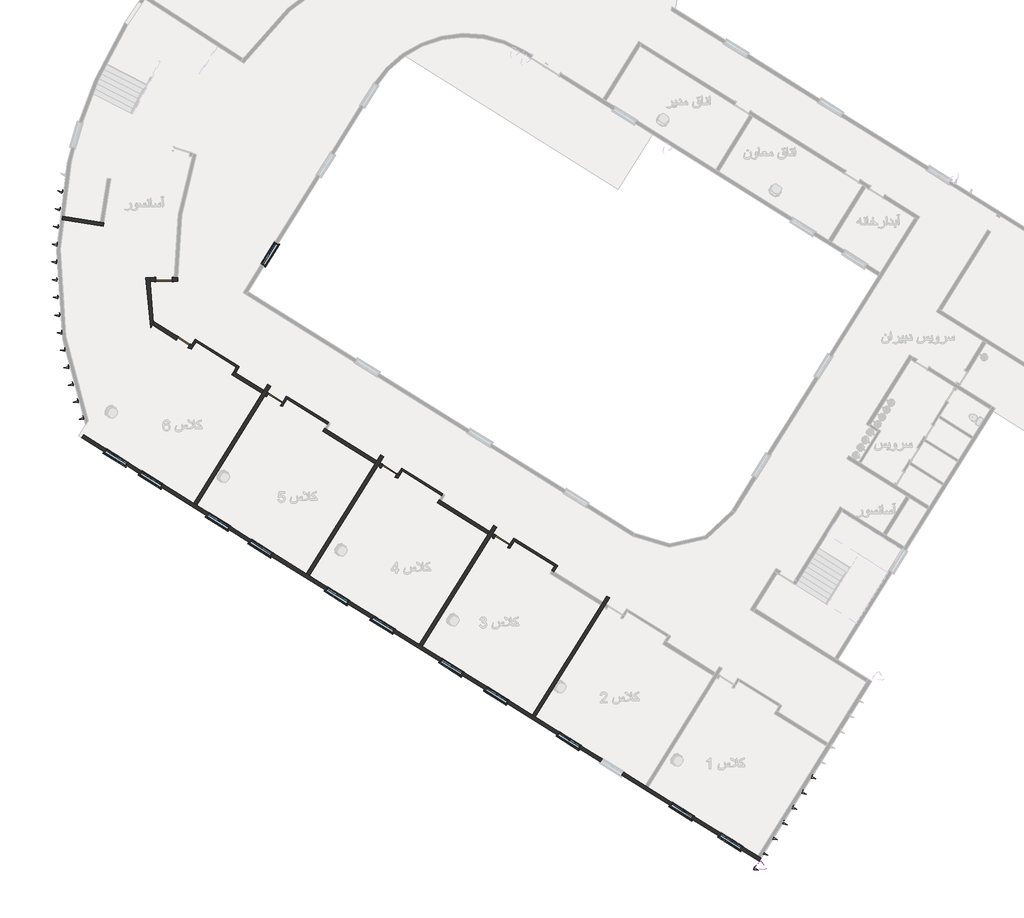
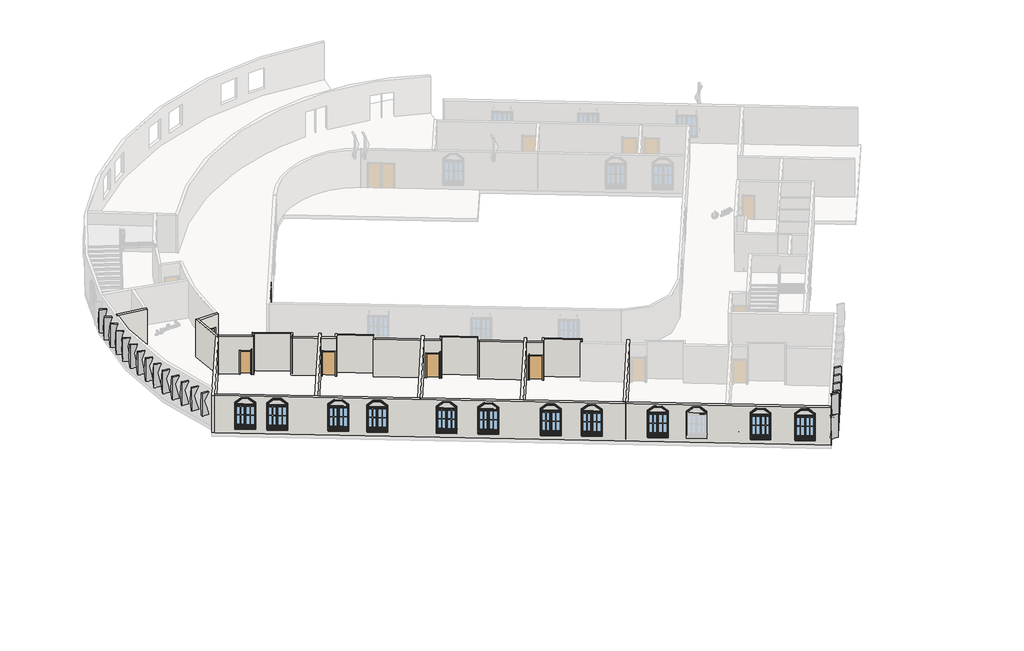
# One storey, part 1 of 12: 23 walls, 22 plates, 12 windows, 5 doors.
"""IFC4 building model written with IfcOpenShell, lengths in millimetres."""

from ifc_helpers import new_model, si_unit, frame, origin, origin_with_axes, place, context, project, spatial, polyline, circle_curve, outline, extrude, faceted_brep, transform, mapped, element, save
from ifc_brep_helpers import plane_surface, cylinder_surface, revolved_surface, advanced_brep
from components import m_single_flush_0762_x_2032mm_0c256fab, m_single_flush_0915_x_2134mm_6a9e8738, m_single_flush_0915_x_2134mm_727434cd, plate_91021fb5, plate_51c6a2b6, m_window_casement_double_1400_x_1800mm_877d247a, m_window_casement_double_1400_x_1800mm_eb8f2d9a

model = new_model("IFC4")

# Units and contexts
model_context = context("Model", 3, world=origin())
ifc_project = project(units=[si_unit("LENGTHUNIT", "METRE", prefix="MILLI")], contexts=[model_context])

# Site, building, storey
site = spatial("IfcSite", under=ifc_project)
building = spatial("IfcBuilding", under=site)
storey = spatial("IfcBuildingStorey", under=building, Name="\u200fهمکف", Elevation=0.0)

# Doors
placement = place(None, origin())
m_single_flush_0762_x_2032mm_shape = m_single_flush_0762_x_2032mm_0c256fab(model_context)
element("IfcDoor", 1, ObjectType="M_Single-Flush : 0762 x 2032mm", at=placement, inside=storey, context=model_context, shape_type="MappedRepresentation", body=[
    mapped(m_single_flush_0762_x_2032mm_shape, transform((10115.2905593, -38746.8053075, 0.0), x_axis=(0.8480480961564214, -0.5299192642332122, 0.0), y_axis=(0.5299192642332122, 0.8480480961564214, 0.0), z_axis=(0.0, 0.0, 1.0))),
])
m_single_flush_0915_x_2134mm_shape = m_single_flush_0915_x_2134mm_6a9e8738(model_context)
element("IfcDoor", 2, ObjectType="M_Single-Flush : 0915 x 2134mm", at=placement, inside=storey, context=model_context, shape_type="MappedRepresentation", body=[
    mapped(m_single_flush_0915_x_2134mm_shape, transform((9053.2639428, -35261.0209227, 0.0), x_axis=(-1.0, 0.0, 0.0), y_axis=(0.0, -1.0, 0.0), z_axis=(0.0, 0.0, 1.0))),
])
m_single_flush_0915_x_2134mm_2_shape = m_single_flush_0915_x_2134mm_727434cd(model_context)
element("IfcDoor", 3, ObjectType="M_Single-Flush : 0915 x 2134mm", at=placement, inside=storey, context=model_context, shape_type="MappedRepresentation", body=[
    mapped(m_single_flush_0915_x_2134mm_2_shape, transform((27835.8534979, -49819.8419864, 0.0), x_axis=(-0.8480480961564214, 0.5299192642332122, 0.0), y_axis=(-0.5299192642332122, -0.8480480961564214, 0.0), z_axis=(0.0, 0.0, 1.0))),
])
element("IfcDoor", 4, ObjectType="M_Single-Flush : 0915 x 2134mm", at=placement, inside=storey, context=model_context, shape_type="MappedRepresentation", body=[
    mapped(m_single_flush_0915_x_2134mm_2_shape, transform((21561.1176268, -45898.9518492, 0.0), x_axis=(-0.8480480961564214, 0.5299192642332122, 0.0), y_axis=(-0.5299192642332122, -0.8480480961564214, 0.0), z_axis=(0.0, 0.0, 1.0))),
])
element("IfcDoor", 5, ObjectType="M_Single-Flush : 0915 x 2134mm", at=placement, inside=storey, context=model_context, shape_type="MappedRepresentation", body=[
    mapped(m_single_flush_0915_x_2134mm_2_shape, transform((15199.9368652, -41924.0449493, 0.0), x_axis=(-0.8480480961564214, 0.5299192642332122, 0.0), y_axis=(-0.5299192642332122, -0.8480480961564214, 0.0), z_axis=(0.0, 0.0, 1.0))),
])

# Plates
plate_shape = plate_91021fb5(model_context)
element("IfcPlate", 6, ObjectType="مدل پارامتریک کصینوس دار : مدل پارامتریک کصینوس دار", at=placement, inside=storey, context=model_context, shape_type="MappedRepresentation", body=[
    mapped(plate_shape, transform((41388.9153587, -69783.5357033, -244.7632103), x_axis=(0.0, 0.0, 1.0), y_axis=(0.5299192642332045, 0.8480480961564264, 0.0), z_axis=(-0.8480480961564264, 0.5299192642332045, 0.0))),
])
element("IfcPlate", 7, ObjectType="مدل پارامتریک کصینوس دار : مدل پارامتریک کصینوس دار", at=placement, inside=storey, context=model_context, shape_type="MappedRepresentation", body=[
    mapped(plate_shape, transform((41839.2084152, -69006.330859, -2050.0), x_axis=(0.0, 0.0, 1.0), y_axis=(0.5299192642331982, 0.8480480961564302, 0.0), z_axis=(-0.8480480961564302, 0.5299192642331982, 0.0))),
])
element("IfcPlate", 8, ObjectType="مدل پارامتریک کصینوس دار : مدل پارامتریک کصینوس دار", at=placement, inside=storey, context=model_context, shape_type="MappedRepresentation", body=[
    mapped(plate_shape, transform((42369.1276794, -68158.2827628, -2050.0), x_axis=(0.0, 0.0, 1.0), y_axis=(0.5299192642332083, 0.8480480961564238, 0.0), z_axis=(-0.8480480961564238, 0.5299192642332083, 0.0))),
])
element("IfcPlate", 9, ObjectType="مدل پارامتریک کصینوس دار : مدل پارامتریک کصینوس دار", at=placement, inside=storey, context=model_context, shape_type="MappedRepresentation", body=[
    mapped(plate_shape, transform((42899.0469437, -67310.2346667, -2050.0), x_axis=(0.0, 0.0, 1.0), y_axis=(0.5299192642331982, 0.8480480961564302, 0.0), z_axis=(-0.8480480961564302, 0.5299192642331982, 0.0))),
])
element("IfcPlate", 10, ObjectType="مدل پارامتریک کصینوس دار : مدل پارامتریک کصینوس دار", at=placement, inside=storey, context=model_context, shape_type="MappedRepresentation", body=[
    mapped(plate_shape, transform((43428.9662079, -66462.1865705, -2050.0), x_axis=(0.0, 0.0, 1.0), y_axis=(0.5299192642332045, 0.8480480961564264, 0.0), z_axis=(-0.8480480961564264, 0.5299192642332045, 0.0))),
])
element("IfcPlate", 11, ObjectType="مدل پارامتریک کصینوس دار : مدل پارامتریک کصینوس دار", at=placement, inside=storey, context=model_context, shape_type="MappedRepresentation", body=[
    mapped(plate_shape, transform((43958.8854721, -65614.1384744, -2050.0), x_axis=(0.0, 0.0, 1.0), y_axis=(0.5299192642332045, 0.8480480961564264, 0.0), z_axis=(-0.8480480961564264, 0.5299192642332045, 0.0))),
])
element("IfcPlate", 12, ObjectType="مدل پارامتریک کصینوس دار : مدل پارامتریک کصینوس دار", at=placement, inside=storey, context=model_context, shape_type="MappedRepresentation", body=[
    mapped(plate_shape, transform((41309.289151, -69854.3789551, -2050.0), x_axis=(0.0, 0.0, 1.0), y_axis=(0.5299192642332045, 0.8480480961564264, 0.0), z_axis=(-0.8480480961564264, 0.5299192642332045, 0.0))),
])
element("IfcPlate", 13, ObjectType="مدل پارامتریک کصینوس دار : مدل پارامتریک کصینوس دار", at=placement, inside=storey, context=model_context, shape_type="MappedRepresentation", body=[
    mapped(plate_shape, transform((44488.8047364, -64766.0903782, -2050.0), x_axis=(0.0, 0.0, 1.0), y_axis=(0.5299192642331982, 0.8480480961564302, 0.0), z_axis=(-0.8480480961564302, 0.5299192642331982, 0.0))),
])
plate_2_shape = plate_51c6a2b6(model_context)
element("IfcPlate", 14, ObjectType="مدل پارامتریک کصینوس دار : مدل پارامتریک کصینوس دار", at=placement, inside=storey, context=model_context, shape_type="MappedRepresentation", body=[
    mapped(plate_2_shape, transform((4717.597283, -44893.7210796, -2050.0), x_axis=(0.0, 0.0, 1.0), y_axis=(0.33370881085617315, -0.9426762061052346, 0.0), z_axis=(0.9426762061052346, 0.33370881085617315, 0.0))),
])
element("IfcPlate", 15, ObjectType="مدل پارامتریک کصینوس دار : مدل پارامتریک کصینوس دار", at=placement, inside=storey, context=model_context, shape_type="MappedRepresentation", body=[
    mapped(plate_2_shape, transform((4328.9182762, -43969.2690648, -2050.0), x_axis=(0.0, 0.0, 1.0), y_axis=(0.29707181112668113, -0.9548551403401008, 0.0), z_axis=(0.9548551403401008, 0.29707181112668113, 0.0))),
])
element("IfcPlate", 16, ObjectType="مدل پارامتریک کصینوس دار : مدل پارامتریک کصینوس دار", at=placement, inside=storey, context=model_context, shape_type="MappedRepresentation", body=[
    mapped(plate_2_shape, transform((3976.2137655, -43030.5026263, -2050.0), x_axis=(0.0, 0.0, 1.0), y_axis=(0.2599919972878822, -0.9656107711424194, 0.0), z_axis=(0.9656107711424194, 0.2599919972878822, 0.0))),
])
element("IfcPlate", 17, ObjectType="مدل پارامتریک کصینوس دار : مدل پارامتریک کصینوس دار", at=placement, inside=storey, context=model_context, shape_type="MappedRepresentation", body=[
    mapped(plate_2_shape, transform((3660.0094908, -42078.8210858, -2050.0), x_axis=(0.0, 0.0, 1.0), y_axis=(0.22252464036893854, -0.9749270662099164, 0.0), z_axis=(0.9749270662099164, 0.22252464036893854, 0.0))),
])
element("IfcPlate", 18, ObjectType="مدل پارامتریک کصینوس دار : مدل پارامتریک کصینوس دار", at=placement, inside=storey, context=model_context, shape_type="MappedRepresentation", body=[
    mapped(plate_2_shape, transform((3380.7767851, -41115.643016, -2050.0), x_axis=(0.0, 0.0, 1.0), y_axis=(0.18472558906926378, -0.9827901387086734, 0.0), z_axis=(0.9827901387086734, 0.18472558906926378, 0.0))),
])
element("IfcPlate", 19, ObjectType="مدل پارامتریک کصینوس دار : مدل پارامتریک کصینوس دار", at=placement, inside=storey, context=model_context, shape_type="MappedRepresentation", body=[
    mapped(plate_2_shape, transform((3138.9318715, -40142.4041267, -2050.0), x_axis=(0.0, 0.0, 1.0), y_axis=(0.146651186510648, -0.9891882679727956, 0.0), z_axis=(0.9891882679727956, 0.146651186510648, 0.0))),
])
element("IfcPlate", 20, ObjectType="مدل پارامتریک کصینوس دار : مدل پارامتریک کصینوس دار", at=placement, inside=storey, context=model_context, shape_type="MappedRepresentation", body=[
    mapped(plate_2_shape, transform((2934.8352432, -39160.5551239, -2050.0), x_axis=(0.0, 0.0, 1.0), y_axis=(0.10835818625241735, -0.9941119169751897, 0.0), z_axis=(0.9941119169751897, 0.10835818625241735, 0.0))),
])
element("IfcPlate", 21, ObjectType="مدل پارامتریک کصینوس دار : مدل پارامتریک کصینوس دار", at=placement, inside=storey, context=model_context, shape_type="MappedRepresentation", body=[
    mapped(plate_2_shape, transform((2768.7911259, -38171.559548, -2050.0), x_axis=(0.0, 0.0, 1.0), y_axis=(0.06990366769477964, -0.997553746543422, 0.0), z_axis=(0.997553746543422, 0.06990366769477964, 0.0))),
])
element("IfcPlate", 22, ObjectType="مدل پارامتریک کصینوس دار : مدل پارامتریک کصینوس دار", at=placement, inside=storey, context=model_context, shape_type="MappedRepresentation", body=[
    mapped(plate_2_shape, transform((2641.0470242, -37176.8915922, -2050.0), x_axis=(0.0, 0.0, 1.0), y_axis=(0.0313449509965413, -0.9995086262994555, 0.0), z_axis=(0.9995086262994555, 0.0313449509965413, 0.0))),
])
element("IfcPlate", 23, ObjectType="مدل پارامتریک کصینوس دار : مدل پارامتریک کصینوس دار", at=placement, inside=storey, context=model_context, shape_type="MappedRepresentation", body=[
    mapped(plate_2_shape, transform((2551.793353, -36178.0339045, -2050.0), x_axis=(0.0, 0.0, 1.0), y_axis=(-0.007260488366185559, -0.9999736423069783, 0.0), z_axis=(0.9999736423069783, -0.007260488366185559, 0.0))),
])
element("IfcPlate", 24, ObjectType="مدل پارامتریک کصینوس دار : مدل پارامتریک کصینوس دار", at=placement, inside=storey, context=model_context, shape_type="MappedRepresentation", body=[
    mapped(plate_2_shape, transform((2501.1631535, -35176.4753786, -2050.0), x_axis=(0.0, 0.0, 1.0), y_axis=(-0.045855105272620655, -0.9989481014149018, 0.0), z_axis=(0.9989481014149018, -0.045855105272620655, 0.0))),
])
element("IfcPlate", 25, ObjectType="مدل پارامتریک کصینوس دار : مدل پارامتریک کصینوس دار", at=placement, inside=storey, context=model_context, shape_type="MappedRepresentation", body=[
    mapped(plate_2_shape, transform((2489.2318949, -34173.7089337, -2050.0), x_axis=(0.0, 0.0, 1.0), y_axis=(-0.08438137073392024, -0.9964335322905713, 0.0), z_axis=(0.9964335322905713, -0.08438137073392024, 0.0))),
])
element("IfcPlate", 26, ObjectType="مدل پارامتریک کصینوس دار : مدل پارامتریک کصینوس دار", at=placement, inside=storey, context=model_context, shape_type="MappedRepresentation", body=[
    mapped(plate_2_shape, transform((2516.0173619, -33171.2292896, -2050.0), x_axis=(0.0, 0.0, 1.0), y_axis=(-0.12278185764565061, -0.9924336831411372, 0.0), z_axis=(0.9924336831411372, -0.12278185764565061, 0.0))),
])
element("IfcPlate", 27, ObjectType="مدل پارامتریک کصینوس دار : مدل پارامتریک کصینوس دار", at=placement, inside=storey, context=model_context, shape_type="MappedRepresentation", body=[
    mapped(plate_2_shape, transform((2581.4796282, -32170.5307388, -2050.0), x_axis=(0.0, 0.0, 1.0), y_axis=(-0.16099932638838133, -0.9869545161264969, 0.0), z_axis=(0.9869545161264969, -0.16099932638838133, 0.0))),
])

# Walls
element("IfcWall", 28, ObjectType="Generic - 200mm", at=placement, inside=storey, context=model_context, shape_type="Brep", body=[
    faceted_brep([(3379.4283717, -31948.7903107, 0.0), (5670.7915732, -32311.7065889, 0.0), (5670.7915732, -32311.7065889, 3300.0), (3379.4283717, -31948.7903107, 3300.0), (3410.7152647, -31751.2526425, 0.0), (3410.7152647, -31751.2526425, 3300.0), (5504.5407981, -32082.8820278, 3300.0), (5702.0784662, -32114.1689208, 3300.0), (5702.0784662, -32114.1689208, 0.0), (5504.5407981, -32082.8820278, 0.0)], [[[0, 1, 2, 3]], [[4, 5, 6, 7, 8, 9]], [[1, 0, 4, 9, 8]], [[0, 3, 5, 4]], [[2, 1, 8, 7]], [[3, 2, 7, 6, 5]]]),
])
element("IfcWall", 29, ObjectType="Generic - 200mm", at=placement, inside=storey, context=model_context, shape_type="AdvancedBrep", body=[
    advanced_brep(
    [(8461.2110478, -37692.4043817, 0.0), (8398.8638738, -37792.1807172, 0.0), (8298.5516912, -37952.7137665, 0.0), (8252.7688162, -37648.5519238, 0.0), (8044.8709061, -35161.0209227, 0.0), (8244.9320284, -35161.0209227, 0.0), (8250.8527294, -35361.0398638, 0.0), (8445.8385172, -37585.6864525, 0.0), (8244.9320284, -35161.0209227, 3300.0), (8250.8518702, -35361.0209227, 3300.0), (8445.8400555, -37585.6984813, 3300.0), (8461.2110478, -37692.4043817, 3300.0), (8298.5516912, -37952.7137665, 3300.0), (8252.7703675, -37648.5632167, 3300.0), (8044.8709061, -35161.0209227, 3300.0), (8398.8638738, -37792.1807172, 3300.0)],
    [
        (0, 1),
        (1, 2),
        (2, 3, circle_curve(frame((29284.4488792, -34638.3554793, 0.0), z_axis=(0.0, 0.0, -1.0), x_axis=(1.0, 0.0, 0.0)), 21246.0078989)),
        (3, 4, circle_curve(frame((29284.4488792, -34638.3554793, 0.0), z_axis=(0.0, 0.0, -1.0), x_axis=(1.0, 0.0, 0.0)), 21246.0078345)),
        (4, 5),
        (5, 6, circle_curve(frame((29284.4488792, -34638.3554793, 0.0), z_axis=(0.0, 0.0, 1.0), x_axis=(1.0, 0.0, 0.0)), 21046.0078989)),
        (6, 7, circle_curve(frame((29284.4488792, -34638.3554793, 0.0), z_axis=(0.0, 0.0, 1.0), x_axis=(1.0, 0.0, 0.0)), 21046.0076905)),
        (7, 0, circle_curve(frame((29284.4488792, -34638.3554793, 0.0), z_axis=(0.0, 0.0, 1.0), x_axis=(1.0, 0.0, 0.0)), 21046.0077374)),
        (8, 9, circle_curve(frame((29284.4488792, -34638.3554793, 3300.0), z_axis=(0.0, 0.0, 1.0), x_axis=(1.0, 0.0, 0.0)), 21046.0078989)),
        (9, 10, circle_curve(frame((29284.4488792, -34638.3554793, 3300.0), z_axis=(0.0, 0.0, 1.0), x_axis=(1.0, 0.0, 0.0)), 21046.0078989)),
        (10, 11, circle_curve(frame((29284.4488792, -34638.3554793, 3300.0), z_axis=(0.0, 0.0, 1.0), x_axis=(1.0, 0.0, 0.0)), 21046.0078989)),
        (11, 0),
        (5, 8),
        (12, 13, circle_curve(frame((29284.4488792, -34638.3554793, 3300.0), z_axis=(0.0, 0.0, -1.0), x_axis=(1.0, 0.0, 0.0)), 21246.0078989)),
        (13, 14, circle_curve(frame((29284.4488792, -34638.3554793, 3300.0), z_axis=(0.0, 0.0, -1.0), x_axis=(1.0, 0.0, 0.0)), 21246.0078989)),
        (14, 4),
        (2, 12),
        (14, 8),
        (11, 15),
        (15, 12),
    ],
    [
        plane_surface(frame((50330.456778, -34638.3554793, 0.0), z_axis=(0.0, 0.0, -1.0), x_axis=(0.0, 1.0, 0.0))),
        revolved_surface(polyline([(50330.4567781, -34638.3554793, 0.0), (50330.4567781, -34638.3554793, 3300.0)]), (29284.4488792, -34638.3554793, 0.0), (0.0, 0.0, -1.0)),
        cylinder_surface(frame((29284.4488792, -34638.3554793, 0.0), z_axis=(0.0, 0.0, 1.0), x_axis=(1.0, 0.0, 0.0)), 21246.0078989),
        plane_surface(frame((8250.8518702, -35161.0209227, 0.0), z_axis=(0.0, 1.0, 0.0), x_axis=(-1.0, 0.0, 0.0))),
        plane_surface(frame((4583.4451713, -43898.1270095, 0.0), z_axis=(0.8480480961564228, -0.5299192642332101, 0.0), x_axis=(0.5299192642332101, 0.8480480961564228, 0.0))),
        plane_surface(frame((48968.0352269, -34638.3554793, 3300.0), z_axis=(0.0, 0.0, 1.0), x_axis=(0.0, -1.0, 0.0))),
    ],
    [
        (0, [[1, 2, 3, 4, 5, 6, 7, 8]]),
        (1, [[9, 10, 11, 12, -8, -7, -6, 13]]),
        (2, [[14, 15, 16, -4, -3, 17]]),
        (3, [[18, -13, -5, -16]]),
        (4, [[19, 20, -17, -2, -1, -12]]),
        (5, [[-11, -10, -9, -18, -15, -14, -20, -19]]),
    ],
),
])
element("IfcWall", 30, ObjectType="Generic - 200mm", at=placement, inside=storey, context=model_context, shape_type="AdvancedBrep", body=[
    advanced_brep(
    [(8250.8518702, -35361.0209227, 0.0), (8595.7639428, -35361.0209227, 0.0), (8595.7639428, -35361.0209227, 2134.0), (9510.7639428, -35361.0209227, 2134.0), (9510.7639428, -35361.0209227, 0.0), (9814.2693312, -35361.0209227, 0.0), (9814.2693312, -35361.0209227, 3300.0), (8250.8518702, -35361.0209227, 3300.0), (8595.7639428, -35161.0209227, 2134.0), (8595.7639428, -35161.0209227, 0.0), (8244.9320284, -35161.0209227, 0.0), (8244.9320284, -35161.0209227, 3300.0), (9607.803018, -35161.0209227, 3300.0), (9807.874288, -35161.0209227, 3300.0), (9807.874288, -35161.0209227, 0.0), (9607.803018, -35161.0209227, 0.0), (9510.7639428, -35161.0209227, 0.0), (9510.7639428, -35161.0209227, 2134.0)],
    [
        (0, 1),
        (1, 2),
        (2, 3),
        (3, 4),
        (4, 5),
        (5, 6),
        (6, 7),
        (7, 0),
        (8, 9),
        (9, 10),
        (10, 11),
        (11, 12),
        (12, 13),
        (13, 14),
        (14, 15),
        (15, 16),
        (16, 17),
        (17, 8),
        (9, 1),
        (0, 10, circle_curve(frame((29284.4488792, -34638.3554793, 0.0), z_axis=(0.0, 0.0, -1.0), x_axis=(1.0, 0.0, 0.0)), 21046.0078989)),
        (14, 5, circle_curve(frame((29284.4488792, -34638.3554793, 0.0), z_axis=(0.0, 0.0, 1.0), x_axis=(1.0, 0.0, 0.0)), 19483.5863478)),
        (4, 16),
        (13, 6, circle_curve(frame((29284.4488792, -34638.3554793, 3300.0), z_axis=(0.0, 0.0, 1.0), x_axis=(1.0, 0.0, 0.0)), 19483.5863478)),
        (7, 11, circle_curve(frame((29284.4488792, -34638.3554793, 3300.0), z_axis=(0.0, 0.0, -1.0), x_axis=(1.0, 0.0, 0.0)), 21046.0078989)),
        (8, 2),
        (17, 3),
    ],
    [
        plane_surface(frame((8250.8518702, -35361.0209227, 0.0), z_axis=(0.0, -1.0, 0.0), x_axis=(1.0, 0.0, 0.0))),
        plane_surface(frame((8250.8518702, -35161.0209227, 0.0), z_axis=(0.0, 1.0, 0.0), x_axis=(-1.0, 0.0, 0.0))),
        plane_surface(frame((8147.6104731, -35361.0209227, 0.0), z_axis=(0.0, 0.0, -1.0), x_axis=(0.0, 1.0, 0.0))),
        revolved_surface(polyline([(48768.035227, -34638.3554793, 0.0), (48768.035227, -34638.3554793, 3300.0)]), (29284.4488792, -34638.3554793, 0.0), (0.0, 0.0, -1.0)),
        cylinder_surface(frame((29284.4488792, -34638.3554793, 0.0), z_axis=(0.0, 0.0, -1.0), x_axis=(1.0, 0.0, 0.0)), 21046.0078989),
        plane_surface(frame((8595.7639428, -35361.0209227, 0.0), z_axis=(1.0, 0.0, 0.0), x_axis=(0.0, 1.0, 0.0))),
        plane_surface(frame((8595.7639428, -35361.0209227, 2134.0), z_axis=(0.0, 0.0, -1.0), x_axis=(0.0, 1.0, 0.0))),
        plane_surface(frame((9510.7639428, -35361.0209227, 2134.0), z_axis=(-1.0, 0.0, 0.0), x_axis=(0.0, 1.0, 0.0))),
        plane_surface(frame((48968.0352269, -34638.3554793, 3300.0), z_axis=(0.0, 0.0, 1.0), x_axis=(0.0, -1.0, 0.0))),
    ],
    [
        (0, [[1, 2, 3, 4, 5, 6, 7, 8]]),
        (1, [[9, 10, 11, 12, 13, 14, 15, 16, 17, 18]]),
        (2, [[-10, 19, -1, 20]]),
        (2, [[-16, -15, 21, -5, 22]]),
        (3, [[-6, -21, -14, 23]]),
        (4, [[-8, 24, -11, -20]]),
        (5, [[-2, -19, -9, 25]]),
        (6, [[-3, -25, -18, 26]]),
        (7, [[-4, -26, -17, -22]]),
        (8, [[-7, -23, -13, -12, -24]]),
    ],
),
])
element("IfcWall", 31, ObjectType="Generic - 200mm", at=placement, inside=storey, context=model_context, shape_type="AdvancedBrep", body=[
    advanced_brep(
    [(4477.4613184, -44067.7366287, 0.0), (4583.4451713, -43898.1270095, 0.0), (8298.5516912, -37952.7137665, 0.0), (8298.5516912, -37952.7137665, 3300.0), (4583.4451713, -43898.1270095, 3300.0), (4477.4613184, -44067.7366287, 3300.0), (4307.8516992, -43961.7527759, 0.0), (4307.8516992, -43961.7527759, 3300.0), (4699.4334687, -43335.0909491, 3300.0), (4833.0156697, -43121.3147404, 3300.0), (8252.7703675, -37648.5632167, 3300.0), (8252.7703675, -37648.5632167, 0.0), (4833.0156697, -43121.3147404, 0.0), (4699.4334687, -43335.0909491, 0.0)],
    [
        (0, 1),
        (1, 2),
        (2, 3),
        (3, 4),
        (4, 5),
        (5, 0),
        (6, 7),
        (7, 8),
        (8, 9),
        (9, 10),
        (10, 11),
        (11, 12),
        (12, 13),
        (13, 6),
        (0, 6),
        (11, 2, circle_curve(frame((29284.4488792, -34638.3554793, 0.0), z_axis=(0.0, 0.0, 1.0), x_axis=(1.0, 0.0, 0.0)), 21246.0078989)),
        (5, 7),
        (10, 3, circle_curve(frame((29284.4488792, -34638.3554793, 3300.0), z_axis=(0.0, 0.0, 1.0), x_axis=(1.0, 0.0, 0.0)), 21246.0078989)),
    ],
    [
        plane_surface(frame((4583.4451713, -43898.1270095, 0.0), z_axis=(0.8480480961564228, -0.5299192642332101, 0.0), x_axis=(0.5299192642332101, 0.8480480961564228, 0.0))),
        plane_surface(frame((4413.835552, -43792.1431566, 0.0), z_axis=(-0.8480480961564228, 0.5299192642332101, 0.0), x_axis=(-0.5299192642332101, -0.8480480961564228, 0.0))),
        plane_surface(frame((4530.4532449, -43982.9318191, 0.0), z_axis=(0.0, 0.0, -1.0), x_axis=(-0.8480480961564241, 0.5299192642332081, 0.0))),
        plane_surface(frame((49821.0906045, -72401.580874, 0.0), z_axis=(-0.5299192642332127, -0.8480480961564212, 0.0), x_axis=(0.8480480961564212, -0.5299192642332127, 0.0))),
        revolved_surface(polyline([(50530.4567781, -34638.3554793, 3300.0), (50530.4567781, -34638.3554793, 0.0)]), (29284.4488792, -34638.3554793, 0.0), (0.0, 0.0, 1.0)),
        plane_surface(frame((48968.0352269, -34638.3554793, 3300.0), z_axis=(0.0, 0.0, 1.0), x_axis=(0.0, -1.0, 0.0))),
    ],
    [
        (0, [[1, 2, 3, 4, 5, 6]]),
        (1, [[7, 8, 9, 10, 11, 12, 13, 14]]),
        (2, [[-2, -1, 15, -14, -13, -12, 16]]),
        (3, [[-6, 17, -7, -15]]),
        (4, [[-3, -16, -11, 18]]),
        (5, [[-5, -4, -18, -10, -9, -8, -17]]),
    ],
),
])
element("IfcWall", 32, ObjectType="Generic - 200mm", at=placement, inside=storey, context=model_context, shape_type="Brep", body=[
    faceted_brep([(42236.7806406, -67426.5423414, 0.0), (42067.1710214, -67320.5584886, 0.0), (35961.2247291, -63505.1397861, 0.0), (35791.6151098, -63399.1559333, 0.0), (29685.6688175, -59583.7372308, 0.0), (29516.0591983, -59477.7533779, 0.0), (23410.1129059, -55662.3346755, 0.0), (23240.5032867, -55556.3508226, 0.0), (17134.5569944, -51740.9321201, 0.0), (16964.9473752, -51634.9482673, 0.0), (10859.0010828, -47819.5295648, 0.0), (10689.3914636, -47713.545712, 0.0), (4583.4451713, -43898.1270095, 0.0), (4583.4451713, -43898.1270095, 3300.0), (10689.3914636, -47713.545712, 3300.0), (10859.0010828, -47819.5295648, 3300.0), (16964.9473752, -51634.9482673, 3300.0), (17134.5569944, -51740.9321201, 3300.0), (23240.5032867, -55556.3508226, 3300.0), (23410.1129059, -55662.3346755, 3300.0), (29516.0591983, -59477.7533779, 3300.0), (29685.6688175, -59583.7372308, 3300.0), (35791.6151098, -63399.1559333, 3300.0), (35961.2247291, -63505.1397861, 3300.0), (42067.1710214, -67320.5584886, 3300.0), (42236.7806406, -67426.5423414, 3300.0), (7042.7846501, -45434.8928758, 2400.0), (5855.5173155, -44693.0059058, 2400.0), (5855.5173155, -44693.0059058, 600.0), (7042.7846501, -45434.8928758, 600.0), (8993.2952713, -46653.7071835, 2400.0), (7806.0279367, -45911.8202136, 2400.0), (7806.0279367, -45911.8202136, 600.0), (8993.2952713, -46653.7071835, 600.0), (12724.7068944, -48985.3519461, 2400.0), (11537.4395598, -48243.4649762, 2400.0), (11537.4395598, -48243.4649762, 600.0), (12724.7068944, -48985.3519461, 600.0), (15099.2415636, -50469.125886, 2400.0), (13911.974229, -49727.2389161, 2400.0), (13911.974229, -49727.2389161, 600.0), (15099.2415636, -50469.125886, 600.0), (19339.4820444, -53118.7222071, 2400.0), (18152.2147098, -52376.8352372, 2400.0), (18152.2147098, -52376.8352372, 600.0), (19339.4820444, -53118.7222071, 600.0), (21883.6263329, -54708.4799998, 2400.0), (20696.3589982, -53966.5930299, 2400.0), (20696.3589982, -53966.5930299, 600.0), (21883.6263329, -54708.4799998, 600.0), (25699.8427656, -57093.1166889, 2400.0), (24512.5754309, -56351.229719, 2400.0), (24512.5754309, -56351.229719, 600.0), (25699.8427656, -57093.1166889, 600.0), (28201.5846492, -58656.3785184, 2400.0), (27014.3173146, -57914.4915485, 2400.0), (27014.3173146, -57914.4915485, 600.0), (28201.5846492, -58656.3785184, 600.0), (32229.813106, -61173.4950235, 2400.0), (31042.5457714, -60431.6080536, 2400.0), (31042.5457714, -60431.6080536, 600.0), (32229.813106, -61173.4950235, 600.0), (34604.3477752, -62657.2689633, 2400.0), (33417.0804406, -61915.3819934, 2400.0), (33417.0804406, -61915.3819934, 600.0), (34604.3477752, -62657.2689633, 600.0), (38505.3690175, -65094.8975788, 2400.0), (37318.1016829, -64353.0106089, 2400.0), (37318.1016829, -64353.0106089, 600.0), (38505.3690175, -65094.8975788, 600.0), (41219.1229252, -66790.6392244, 2400.0), (40031.8555906, -66048.7522544, 2400.0), (40031.8555906, -66048.7522544, 600.0), (41219.1229252, -66790.6392244, 600.0), (42130.7967878, -67596.1519607, 0.0), (42130.7967878, -67596.1519607, 3300.0), (4477.4613184, -44067.7366287, 3300.0), (4477.4613184, -44067.7366287, 0.0), (6936.8007973, -45604.502495, 2400.0), (6936.8007973, -45604.502495, 600.0), (5749.5334627, -44862.6155251, 600.0), (5749.5334627, -44862.6155251, 2400.0), (8887.3114184, -46823.3168027, 2400.0), (8887.3114184, -46823.3168027, 600.0), (7700.0440838, -46081.4298328, 600.0), (7700.0440838, -46081.4298328, 2400.0), (12618.7230415, -49154.9615654, 2400.0), (12618.7230415, -49154.9615654, 600.0), (11431.4557069, -48413.0745954, 600.0), (11431.4557069, -48413.0745954, 2400.0), (14993.2577108, -50638.7355052, 2400.0), (14993.2577108, -50638.7355052, 600.0), (13805.9903761, -49896.8485353, 600.0), (13805.9903761, -49896.8485353, 2400.0), (19233.4981915, -53288.3318264, 2400.0), (19233.4981915, -53288.3318264, 600.0), (18046.2308569, -52546.4448565, 600.0), (18046.2308569, -52546.4448565, 2400.0), (21777.64248, -54878.0896191, 2400.0), (21777.64248, -54878.0896191, 600.0), (20590.3751454, -54136.2026491, 600.0), (20590.3751454, -54136.2026491, 2400.0), (25593.8589127, -57262.7263081, 2400.0), (25593.8589127, -57262.7263081, 600.0), (24406.5915781, -56520.8393382, 600.0), (24406.5915781, -56520.8393382, 2400.0), (28095.6007964, -58825.9881376, 2400.0), (28095.6007964, -58825.9881376, 600.0), (26908.3334618, -58084.1011677, 600.0), (26908.3334618, -58084.1011677, 2400.0), (32123.8292531, -61343.1046427, 2400.0), (32123.8292531, -61343.1046427, 600.0), (30936.5619185, -60601.2176728, 600.0), (30936.5619185, -60601.2176728, 2400.0), (34498.3639224, -62826.8785826, 2400.0), (34498.3639224, -62826.8785826, 600.0), (33311.0965877, -62084.9916126, 600.0), (33311.0965877, -62084.9916126, 2400.0), (38399.3851647, -65264.507198, 2400.0), (38399.3851647, -65264.507198, 600.0), (37212.1178301, -64522.6202281, 600.0), (37212.1178301, -64522.6202281, 2400.0), (41113.1390724, -66960.2488436, 2400.0), (41113.1390724, -66960.2488436, 600.0), (39925.8717378, -66218.3618737, 600.0), (39925.8717378, -66218.3618737, 2400.0)], [[[0, 1, 2, 3, 4, 5, 6, 7, 8, 9, 10, 11, 12, 13, 14, 15, 16, 17, 18, 19, 20, 21, 22, 23, 24, 25], [26, 27, 28, 29], [30, 31, 32, 33], [34, 35, 36, 37], [38, 39, 40, 41], [42, 43, 44, 45], [46, 47, 48, 49], [50, 51, 52, 53], [54, 55, 56, 57], [58, 59, 60, 61], [62, 63, 64, 65], [66, 67, 68, 69], [70, 71, 72, 73]], [[74, 75, 76, 77], [78, 79, 80, 81], [82, 83, 84, 85], [86, 87, 88, 89], [90, 91, 92, 93], [94, 95, 96, 97], [98, 99, 100, 101], [102, 103, 104, 105], [106, 107, 108, 109], [110, 111, 112, 113], [114, 115, 116, 117], [118, 119, 120, 121], [122, 123, 124, 125]], [[12, 11, 10, 9, 8, 7, 6, 5, 4, 3, 2, 1, 0, 74, 77]], [[13, 12, 77, 76]], [[0, 25, 75, 74]], [[25, 24, 23, 22, 21, 20, 19, 18, 17, 16, 15, 14, 13, 76, 75]], [[79, 78, 26, 29]], [[80, 79, 29, 28]], [[81, 80, 28, 27]], [[78, 81, 27, 26]], [[83, 82, 30, 33]], [[84, 83, 33, 32]], [[85, 84, 32, 31]], [[82, 85, 31, 30]], [[87, 86, 34, 37]], [[88, 87, 37, 36]], [[89, 88, 36, 35]], [[86, 89, 35, 34]], [[91, 90, 38, 41]], [[92, 91, 41, 40]], [[93, 92, 40, 39]], [[90, 93, 39, 38]], [[95, 94, 42, 45]], [[96, 95, 45, 44]], [[97, 96, 44, 43]], [[94, 97, 43, 42]], [[99, 98, 46, 49]], [[100, 99, 49, 48]], [[101, 100, 48, 47]], [[98, 101, 47, 46]], [[103, 102, 50, 53]], [[104, 103, 53, 52]], [[105, 104, 52, 51]], [[102, 105, 51, 50]], [[107, 106, 54, 57]], [[108, 107, 57, 56]], [[109, 108, 56, 55]], [[106, 109, 55, 54]], [[111, 110, 58, 61]], [[112, 111, 61, 60]], [[113, 112, 60, 59]], [[110, 113, 59, 58]], [[115, 114, 62, 65]], [[116, 115, 65, 64]], [[117, 116, 64, 63]], [[114, 117, 63, 62]], [[119, 118, 66, 69]], [[120, 119, 69, 68]], [[121, 120, 68, 67]], [[118, 121, 67, 66]], [[123, 122, 70, 73]], [[124, 123, 73, 72]], [[125, 124, 72, 71]], [[122, 125, 71, 70]]]),
])
element("IfcWall", 33, ObjectType="Generic - 200mm", at=placement, inside=storey, context=model_context, shape_type="SweptSolid", body=[
    extrude(outline(polyline([(14992.3713439, -41204.7544148), (10859.0010828, -47819.5295648), (10689.3914636, -47713.545712), (14822.7617246, -41098.7705619), (14992.3713439, -41204.7544148)])), origin_with_axes(), (0.0, 0.0, 1.0), 3300.0),
])
element("IfcWall", 34, ObjectType="Generic - 200mm", at=placement, inside=storey, context=model_context, shape_type="SweptSolid", body=[
    extrude(outline(polyline([(23240.5032867, -55556.3508226), (27373.8735477, -48941.5756726), (27543.483167, -49047.5595254), (23410.1129059, -55662.3346755), (23240.5032867, -55556.3508226)])), origin_with_axes(), (0.0, 0.0, 1.0), 3300.0),
])
element("IfcWall", 35, ObjectType="Generic - 200mm", at=placement, inside=storey, context=model_context, shape_type="SweptSolid", body=[
    extrude(outline(polyline([(29516.0591983, -59477.7533779), (33649.4294593, -52862.9782279), (33819.0390785, -52968.9620808), (29685.6688175, -59583.7372308), (29516.0591983, -59477.7533779)])), origin_with_axes(), (0.0, 0.0, 1.0), 3300.0),
])
element("IfcWall", 36, ObjectType="Generic - 200mm", at=placement, inside=storey, context=model_context, shape_type="SweptSolid", body=[
    extrude(outline(polyline([(16964.9473752, -51634.9482673), (21098.3176362, -45020.1731173), (21267.9272554, -45126.1569701), (17134.5569944, -51740.9321201), (16964.9473752, -51634.9482673)])), origin_with_axes(), (0.0, 0.0, 1.0), 3300.0),
])
element("IfcWall", 37, ObjectType="Generic - 200mm", at=placement, inside=storey, context=model_context, shape_type="AdvancedBrep", body=[
    advanced_brep(
    [(10385.4049576, -39033.5093567, 2032.0), (10385.4049576, -39033.5093567, 0.0), (10575.3677311, -39152.2112719, 0.0), (10575.3677311, -39152.2112719, 3300.0), (8398.8638738, -37792.1807172, 3300.0), (8398.8638738, -37792.1807172, 0.0), (9739.1923083, -38629.7108774, 0.0), (9739.1923083, -38629.7108774, 2032.0), (10681.3515839, -38982.6016527, 0.0), (10576.19362, -38916.8916639, 0.0), (10491.3888104, -38863.8997375, 0.0), (10491.3888104, -38863.8997375, 2032.0), (9845.1761611, -38460.1012582, 2032.0), (9845.1761611, -38460.1012582, 0.0), (8445.8401379, -37585.6990642, 0.0), (8445.8401379, -37585.6990642, 3300.0), (10576.19362, -38916.8916639, 3300.0), (10681.3515839, -38982.6016527, 3300.0), (8461.2110478, -37692.4043817, 0.0), (8461.2110478, -37692.4043817, 3300.0)],
    [
        (0, 1),
        (1, 2),
        (2, 3),
        (3, 4),
        (4, 5),
        (5, 6),
        (6, 7),
        (7, 0),
        (8, 9),
        (9, 10),
        (10, 11),
        (11, 12),
        (12, 13),
        (13, 14),
        (14, 15),
        (15, 16),
        (16, 17),
        (17, 8),
        (5, 18),
        (18, 14, circle_curve(frame((29284.4488792, -34638.3554793, 0.0), z_axis=(0.0, 0.0, -1.0), x_axis=(0.02110900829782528, -0.9997771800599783, 0.0)), 21046.0078989)),
        (13, 6),
        (1, 10),
        (8, 2),
        (3, 17),
        (15, 19, circle_curve(frame((29284.4488792, -34638.3554793, 3300.0), z_axis=(0.0, 0.0, 1.0), x_axis=(0.02110900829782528, -0.9997771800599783, 0.0)), 21046.0078989)),
        (19, 4),
        (19, 18),
        (0, 11),
        (7, 12),
    ],
    [
        plane_surface(frame((53742.4931599, -66126.0249624, 0.0), z_axis=(-0.5299192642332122, -0.8480480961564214, 0.0), x_axis=(0.8480480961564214, -0.5299192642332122, 0.0))),
        plane_surface(frame((53848.4770127, -65956.4153432, 0.0), z_axis=(0.5299192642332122, 0.8480480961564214, 0.0), x_axis=(-0.8480480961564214, 0.5299192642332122, 0.0))),
        plane_surface(frame((8300.4134234, -37730.662048, 0.0), z_axis=(0.0, 0.0, -1.0), x_axis=(0.5299192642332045, 0.8480480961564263, 0.0))),
        plane_surface(frame((48968.0352269, -34638.3554793, 3300.0), z_axis=(0.0, 0.0, 1.0), x_axis=(0.0, -1.0, 0.0))),
        plane_surface(frame((6495.8321463, -40837.6681004, -165.0), z_axis=(-0.8480480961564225, 0.5299192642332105, 0.0), x_axis=(-0.5299192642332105, -0.8480480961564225, 0.0))),
        cylinder_surface(frame((29284.4488792, -34638.3554793, -165.0), z_axis=(0.0, 0.0, 1.0), x_axis=(0.02110900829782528, -0.9997771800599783, 0.0)), 21046.0078989),
        plane_surface(frame((10491.3888104, -38863.8997375, 0.0), z_axis=(-0.8480480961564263, 0.5299192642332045, 0.0), x_axis=(-0.5299192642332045, -0.8480480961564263, 0.0))),
        plane_surface(frame((10491.3888104, -38863.8997375, 2032.0), z_axis=(0.0, 0.0, -1.0), x_axis=(-0.5299192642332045, -0.8480480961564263, 0.0))),
        plane_surface(frame((9845.1761611, -38460.1012582, 2032.0), z_axis=(0.8480480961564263, -0.5299192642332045, 0.0), x_axis=(-0.5299192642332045, -0.8480480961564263, 0.0))),
        plane_surface(frame((10681.3515839, -38982.6016527, 0.0), z_axis=(0.8480480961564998, -0.5299192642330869, 0.0), x_axis=(0.5299192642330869, 0.8480480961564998, 0.0))),
    ],
    [
        (0, [[1, 2, 3, 4, 5, 6, 7, 8]]),
        (1, [[9, 10, 11, 12, 13, 14, 15, 16, 17, 18]]),
        (2, [[-6, 19, 20, -14, 21]]),
        (2, [[-2, 22, -10, -9, 23]]),
        (3, [[-4, 24, -17, -16, 25, 26]]),
        (4, [[-5, -26, 27, -19]]),
        (5, [[-25, -15, -20, -27]]),
        (6, [[-11, -22, -1, 28]]),
        (7, [[-12, -28, -8, 29]]),
        (8, [[-13, -29, -7, -21]]),
        (9, [[-3, -23, -18, -24]]),
    ],
),
])
element("IfcWall", 38, ObjectType="Generic - 200mm", at=placement, inside=storey, context=model_context, shape_type="Brep", body=[
    faceted_brep([(17877.2357844, -43714.9248301, 0.0), (21120.1436964, -45741.3185954, 0.0), (21120.1436964, -45741.3185954, 2134.0), (21896.1077044, -46226.1947222, 2134.0), (21896.1077044, -46226.1947222, 0.0), (22052.1485541, -46323.6998668, 0.0), (22052.1485541, -46323.6998668, 3300.0), (17877.2357844, -43714.9248301, 3300.0), (21226.1275492, -45571.7089762, 2134.0), (21226.1275492, -45571.7089762, 0.0), (18088.3776011, -43611.0251996, 0.0), (17983.2196372, -43545.3152109, 0.0), (17983.2196372, -43545.3152109, 3300.0), (18088.3776011, -43611.0251996, 3300.0), (22052.974443, -46088.3802588, 3300.0), (22158.1324069, -46154.0902475, 3300.0), (22158.1324069, -46154.0902475, 0.0), (22052.974443, -46088.3802588, 0.0), (22002.0915572, -46056.5851029, 0.0), (22002.0915572, -46056.5851029, 2134.0)], [[[0, 1, 2, 3, 4, 5, 6, 7]], [[8, 9, 10, 11, 12, 13, 14, 15, 16, 17, 18, 19]], [[11, 10, 9, 1, 0]], [[18, 17, 16, 5, 4]], [[6, 5, 16, 15]], [[0, 7, 12, 11]], [[2, 1, 9, 8]], [[3, 2, 8, 19]], [[4, 3, 19, 18]], [[7, 6, 15, 14, 13, 12]]]),
])
element("IfcWall", 39, ObjectType="Generic - 200mm", at=placement, inside=storey, context=model_context, shape_type="Brep", body=[
    faceted_brep([(24237.5965055, -47689.3193118, 0.0), (27394.8795675, -49662.2087326, 0.0), (27394.8795675, -49662.2087326, 2134.0), (28170.8435755, -50147.0848594, 2134.0), (28170.8435755, -50147.0848594, 0.0), (28276.0015394, -50212.7948481, 0.0), (28276.0015394, -50212.7948481, 3300.0), (24237.5965055, -47689.3193118, 3300.0), (27500.8634204, -49492.5991134, 2134.0), (27500.8634204, -49492.5991134, 0.0), (24448.7383223, -47585.4196814, 0.0), (24343.5803584, -47519.7096926, 0.0), (24343.5803584, -47519.7096926, 3300.0), (24448.7383223, -47585.4196814, 3300.0), (28276.8274284, -49977.4752401, 3300.0), (28381.9853923, -50043.1852289, 3300.0), (28381.9853923, -50043.1852289, 0.0), (28276.8274284, -49977.4752401, 0.0), (28276.8274284, -49977.4752401, 2134.0)], [[[0, 1, 2, 3, 4, 5, 6, 7]], [[8, 9, 10, 11, 12, 13, 14, 15, 16, 17, 18]], [[11, 10, 9, 1, 0]], [[17, 16, 5, 4]], [[6, 5, 16, 15]], [[0, 7, 12, 11]], [[2, 1, 9, 8]], [[3, 2, 8, 18]], [[4, 3, 18, 17]], [[7, 6, 15, 14, 13, 12]]]),
])
element("IfcWall", 40, ObjectType="Generic - 200mm", at=placement, inside=storey, context=model_context, shape_type="Brep", body=[
    faceted_brep([(12812.5186088, -40550.138291, 0.0), (14758.9629348, -41766.4116955, 0.0), (14758.9629348, -41766.4116955, 2134.0), (15534.9269428, -42251.2878223, 2134.0), (15534.9269428, -42251.2878223, 0.0), (15640.0849067, -42316.9978111, 0.0), (15640.0849067, -42316.9978111, 3300.0), (12812.5186088, -40550.138291, 3300.0), (14864.9467876, -41596.8020763, 2134.0), (14864.9467876, -41596.8020763, 0.0), (13023.6604255, -40446.2386605, 0.0), (12918.5024616, -40380.5286717, 0.0), (12918.5024616, -40380.5286717, 3300.0), (13023.6604255, -40446.2386605, 3300.0), (15640.9107956, -42081.6782031, 3300.0), (15746.0687595, -42147.3881918, 3300.0), (15746.0687595, -42147.3881918, 0.0), (15640.9107956, -42081.6782031, 0.0), (15640.9107956, -42081.6782031, 2134.0)], [[[0, 1, 2, 3, 4, 5, 6, 7]], [[8, 9, 10, 11, 12, 13, 14, 15, 16, 17, 18]], [[17, 16, 5, 4]], [[11, 10, 9, 1, 0]], [[6, 5, 16, 15]], [[7, 6, 15, 14, 13, 12]], [[4, 3, 18, 17]], [[3, 2, 8, 18]], [[2, 1, 9, 8]], [[0, 7, 12, 11]]]),
])
element("IfcWall", 41, ObjectType="Interior - Blockwork 100", at=placement, inside=storey, context=model_context, shape_type="SweptSolid", body=[
    extrude(outline(polyline([(30764.8433806, -51207.9321277), (28527.6925029, -49810.0051086), (28593.4024917, -49704.8471447), (30830.5533693, -51102.7741637), (30764.8433806, -51207.9321277)])), origin_with_axes(), (0.0, 0.0, 1.0), 3300.0),
])
element("IfcWall", 42, ObjectType="Interior - Blockwork 100", at=placement, inside=storey, context=model_context, shape_type="Brep", body=[
    faceted_brep([(30724.2942339, -51506.8222367, 0.0), (30935.7113333, -51168.4841525, 0.0), (30935.7113333, -51168.4841525, 3300.0), (30724.2942339, -51506.8222367, 3300.0), (30619.1362699, -51441.1122479, 0.0), (30619.1362699, -51441.1122479, 3300.0), (30764.8433806, -51207.9321277, 3300.0), (30830.5533693, -51102.7741637, 3300.0), (30830.5533693, -51102.7741637, 0.0), (30764.8433806, -51207.9321277, 0.0)], [[[0, 1, 2, 3]], [[4, 5, 6, 7, 8, 9]], [[1, 0, 4, 9, 8]], [[2, 1, 8, 7]], [[0, 3, 5, 4]], [[3, 2, 7, 6, 5]]]),
])
element("IfcWall", 43, ObjectType="Interior - Blockwork 100", at=placement, inside=storey, context=model_context, shape_type="Brep", body=[
    faceted_brep([(28488.2445278, -49639.1371559, 0.0), (28276.8274284, -49977.4752401, 0.0), (28276.8274284, -49977.4752401, 3300.0), (28488.2445278, -49639.1371559, 3300.0), (28593.4024917, -49704.8471447, 0.0), (28593.4024917, -49704.8471447, 3300.0), (28527.6925029, -49810.0051086, 3300.0), (28381.9853923, -50043.1852289, 3300.0), (28381.9853923, -50043.1852289, 0.0), (28527.6925029, -49810.0051086, 0.0)], [[[0, 1, 2, 3]], [[4, 5, 6, 7, 8, 9]], [[1, 0, 4, 9, 8]], [[0, 3, 5, 4]], [[2, 1, 8, 7]], [[3, 2, 7, 6, 5]]]),
])
element("IfcWall", 44, ObjectType="Interior - Blockwork 100", at=placement, inside=storey, context=model_context, shape_type="Brep", body=[
    faceted_brep([(22198.6815536, -45855.2001385, 0.0), (22303.8395175, -45920.9101273, 0.0), (24489.287469, -47286.5295723, 0.0), (24489.287469, -47286.5295723, 3300.0), (22303.8395175, -45920.9101273, 3300.0), (22198.6815536, -45855.2001385, 3300.0), (22264.3915424, -45750.0421746, 0.0), (22264.3915424, -45750.0421746, 3300.0), (24554.9974578, -47181.3716084, 3300.0), (24554.9974578, -47181.3716084, 0.0)], [[[0, 1, 2, 3, 4, 5]], [[6, 7, 8, 9]], [[2, 1, 0, 6, 9]], [[3, 2, 9, 8]], [[0, 5, 7, 6]], [[5, 4, 3, 8, 7]]]),
])
element("IfcWall", 45, ObjectType="Interior - Blockwork 100", at=placement, inside=storey, context=model_context, shape_type="SweptSolid", body=[
    extrude(outline(polyline([(18128.9267478, -43312.1350906), (15891.7758702, -41914.2080715), (15957.4858589, -41809.0501076), (18194.6367366, -43206.9771267), (18128.9267478, -43312.1350906)])), origin_with_axes(), (0.0, 0.0, 1.0), 3300.0),
])
element("IfcWall", 46, ObjectType="Interior - Blockwork 100", at=placement, inside=storey, context=model_context, shape_type="Brep", body=[
    faceted_brep([(15852.327895, -41743.3401189, 0.0), (15640.9107956, -42081.6782031, 0.0), (15640.9107956, -42081.6782031, 3300.0), (15852.327895, -41743.3401189, 3300.0), (15957.4858589, -41809.0501076, 0.0), (15957.4858589, -41809.0501076, 3300.0), (15891.7758702, -41914.2080715, 3300.0), (15746.0687595, -42147.3881918, 3300.0), (15746.0687595, -42147.3881918, 0.0), (15891.7758702, -41914.2080715, 0.0)], [[[0, 1, 2, 3]], [[4, 5, 6, 7, 8, 9]], [[1, 0, 4, 9, 8]], [[0, 3, 5, 4]], [[2, 1, 8, 7]], [[3, 2, 7, 6, 5]]]),
])
element("IfcWall", 47, ObjectType="Interior - Blockwork 100", at=placement, inside=storey, context=model_context, shape_type="Brep", body=[
    faceted_brep([(13130.4701673, -40041.3094333, 0.0), (13064.7601785, -40146.4673972, 0.0), (12918.5024616, -40380.5286717, 0.0), (12918.5024616, -40380.5286717, 3300.0), (13064.7601785, -40146.4673972, 3300.0), (13130.4701673, -40041.3094333, 3300.0), (13235.6281312, -40107.019422, 0.0), (13235.6281312, -40107.019422, 3300.0), (13023.6604255, -40446.2386605, 3300.0), (13023.6604255, -40446.2386605, 0.0)], [[[0, 1, 2, 3, 4, 5]], [[6, 7, 8, 9]], [[2, 1, 0, 6, 9]], [[0, 5, 7, 6]], [[5, 4, 3, 8, 7]], [[3, 2, 9, 8]]]),
])
element("IfcWall", 48, ObjectType="Interior - Blockwork 100", at=placement, inside=storey, context=model_context, shape_type="Brep", body=[
    faceted_brep([(10722.4513369, -38682.8303894, 0.0), (10827.6093009, -38748.5403782, 0.0), (13064.7601785, -40146.4673972, 0.0), (13064.7601785, -40146.4673972, 3300.0), (10827.6093009, -38748.5403782, 3300.0), (10722.4513369, -38682.8303894, 3300.0), (10788.1613257, -38577.6724255, 0.0), (10788.1613257, -38577.6724255, 3300.0), (13130.4701673, -40041.3094333, 3300.0), (13130.4701673, -40041.3094333, 0.0)], [[[0, 1, 2, 3, 4, 5]], [[6, 7, 8, 9]], [[2, 1, 0, 6, 9]], [[3, 2, 9, 8]], [[0, 5, 7, 6]], [[5, 4, 3, 8, 7]]]),
])
element("IfcWall", 49, ObjectType="Interior - Blockwork 100", at=placement, inside=storey, context=model_context, shape_type="SweptSolid", body=[
    extrude(outline(polyline([(10576.19362, -38916.8916639), (10722.4513369, -38682.8303894), (10827.6093009, -38748.5403782), (10681.3515839, -38982.6016527), (10576.19362, -38916.8916639)])), origin_with_axes(), (0.0, 0.0, 1.0), 3300.0),
])
element("IfcWall", 50, ObjectType="Interior - Blockwork 100", at=placement, inside=storey, context=model_context, shape_type="SweptSolid", body=[
    extrude(outline(polyline([(22052.974443, -46088.3802588), (22198.6815536, -45855.2001385), (22303.8395175, -45920.9101273), (22158.1324069, -46154.0902475), (22052.974443, -46088.3802588)])), origin_with_axes(), (0.0, 0.0, 1.0), 3300.0),
])

# Windows
m_window_casement_double_1400_x_1800mm_shape = m_window_casement_double_1400_x_1800mm_877d247a(model_context)
element("IfcWindow", 51, ObjectType="M_Window-Casement-Double : 1400 x 1800mm", at=placement, inside=storey, context=model_context, shape_type="MappedRepresentation", body=[
    mapped(m_window_casement_double_1400_x_1800mm_shape, transform((6396.1590564, -45148.7542004, -300.0), x_axis=(0.8480480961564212, -0.5299192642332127, 0.0), y_axis=(0.5299192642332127, 0.8480480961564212, 0.0), z_axis=(0.0, 0.0, 1.0))),
])
element("IfcWindow", 52, ObjectType="M_Window-Casement-Double : 1400 x 1800mm", at=placement, inside=storey, context=model_context, shape_type="MappedRepresentation", body=[
    mapped(m_window_casement_double_1400_x_1800mm_shape, transform((8346.6696776, -46367.5685082, -300.0), x_axis=(0.8480480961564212, -0.5299192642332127, 0.0), y_axis=(0.5299192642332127, 0.8480480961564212, 0.0), z_axis=(0.0, 0.0, 1.0))),
])
element("IfcWindow", 53, ObjectType="M_Window-Casement-Double : 1400 x 1800mm", at=placement, inside=storey, context=model_context, shape_type="MappedRepresentation", body=[
    mapped(m_window_casement_double_1400_x_1800mm_shape, transform((12078.0813006, -48699.2132708, -300.0), x_axis=(0.8480480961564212, -0.5299192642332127, 0.0), y_axis=(0.5299192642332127, 0.8480480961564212, 0.0), z_axis=(0.0, 0.0, 1.0))),
])
element("IfcWindow", 54, ObjectType="M_Window-Casement-Double : 1400 x 1800mm", at=placement, inside=storey, context=model_context, shape_type="MappedRepresentation", body=[
    mapped(m_window_casement_double_1400_x_1800mm_shape, transform((14452.6159699, -50182.9872106, -300.0), x_axis=(0.8480480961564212, -0.5299192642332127, 0.0), y_axis=(0.5299192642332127, 0.8480480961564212, 0.0), z_axis=(0.0, 0.0, 1.0))),
])
element("IfcWindow", 55, ObjectType="M_Window-Casement-Double : 1400 x 1800mm", at=placement, inside=storey, context=model_context, shape_type="MappedRepresentation", body=[
    mapped(m_window_casement_double_1400_x_1800mm_shape, transform((18692.8564507, -52832.5835318, -300.0), x_axis=(0.8480480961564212, -0.5299192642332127, 0.0), y_axis=(0.5299192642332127, 0.8480480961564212, 0.0), z_axis=(0.0, 0.0, 1.0))),
])
element("IfcWindow", 56, ObjectType="M_Window-Casement-Double : 1400 x 1800mm", at=placement, inside=storey, context=model_context, shape_type="MappedRepresentation", body=[
    mapped(m_window_casement_double_1400_x_1800mm_shape, transform((21237.0007391, -54422.3413245, -300.0), x_axis=(0.8480480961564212, -0.5299192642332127, 0.0), y_axis=(0.5299192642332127, 0.8480480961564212, 0.0), z_axis=(0.0, 0.0, 1.0))),
])
element("IfcWindow", 57, ObjectType="M_Window-Casement-Double : 1400 x 1800mm", at=placement, inside=storey, context=model_context, shape_type="MappedRepresentation", body=[
    mapped(m_window_casement_double_1400_x_1800mm_shape, transform((25053.2171718, -56806.9780135, -300.0), x_axis=(0.8480480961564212, -0.5299192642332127, 0.0), y_axis=(0.5299192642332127, 0.8480480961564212, 0.0), z_axis=(0.0, 0.0, 1.0))),
])
element("IfcWindow", 58, ObjectType="M_Window-Casement-Double : 1400 x 1800mm", at=placement, inside=storey, context=model_context, shape_type="MappedRepresentation", body=[
    mapped(m_window_casement_double_1400_x_1800mm_shape, transform((27554.9590555, -58370.239843, -300.0), x_axis=(0.8480480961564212, -0.5299192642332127, 0.0), y_axis=(0.5299192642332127, 0.8480480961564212, 0.0), z_axis=(0.0, 0.0, 1.0))),
])
element("IfcWindow", 59, ObjectType="M_Window-Casement-Double : 1400 x 1800mm", at=placement, inside=storey, context=model_context, shape_type="MappedRepresentation", body=[
    mapped(m_window_casement_double_1400_x_1800mm_shape, transform((31583.1875122, -60887.3563481, -300.0), x_axis=(0.8480480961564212, -0.5299192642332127, 0.0), y_axis=(0.5299192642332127, 0.8480480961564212, 0.0), z_axis=(0.0, 0.0, 1.0))),
])
element("IfcWindow", 60, ObjectType="M_Window-Casement-Double : 1400 x 1800mm", at=placement, inside=storey, context=model_context, shape_type="MappedRepresentation", body=[
    mapped(m_window_casement_double_1400_x_1800mm_shape, transform((37858.7434238, -64808.7589035, -300.0), x_axis=(0.8480480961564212, -0.5299192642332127, 0.0), y_axis=(0.5299192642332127, 0.8480480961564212, 0.0), z_axis=(0.0, 0.0, 1.0))),
])
element("IfcWindow", 61, ObjectType="M_Window-Casement-Double : 1400 x 1800mm", at=placement, inside=storey, context=model_context, shape_type="MappedRepresentation", body=[
    mapped(m_window_casement_double_1400_x_1800mm_shape, transform((40572.4973315, -66504.500549, -300.0), x_axis=(0.8480480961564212, -0.5299192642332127, 0.0), y_axis=(0.5299192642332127, 0.8480480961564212, 0.0), z_axis=(0.0, 0.0, 1.0))),
])
m_window_casement_double_1400_x_1800mm_2_shape = m_window_casement_double_1400_x_1800mm_eb8f2d9a(model_context)
element("IfcWindow", 62, ObjectType="M_Window-Casement-Double : 1400 x 1800mm", at=placement, inside=storey, context=model_context, shape_type="MappedRepresentation", body=[
    mapped(m_window_casement_double_1400_x_1800mm_2_shape, transform((14916.9804417, -33846.7388498, -300.0), x_axis=(-0.5299192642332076, -0.8480480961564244, 0.0), y_axis=(0.8480480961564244, -0.5299192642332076, 0.0), z_axis=(0.0, 0.0, 1.0))),
])

save(model, "model.ifc")
